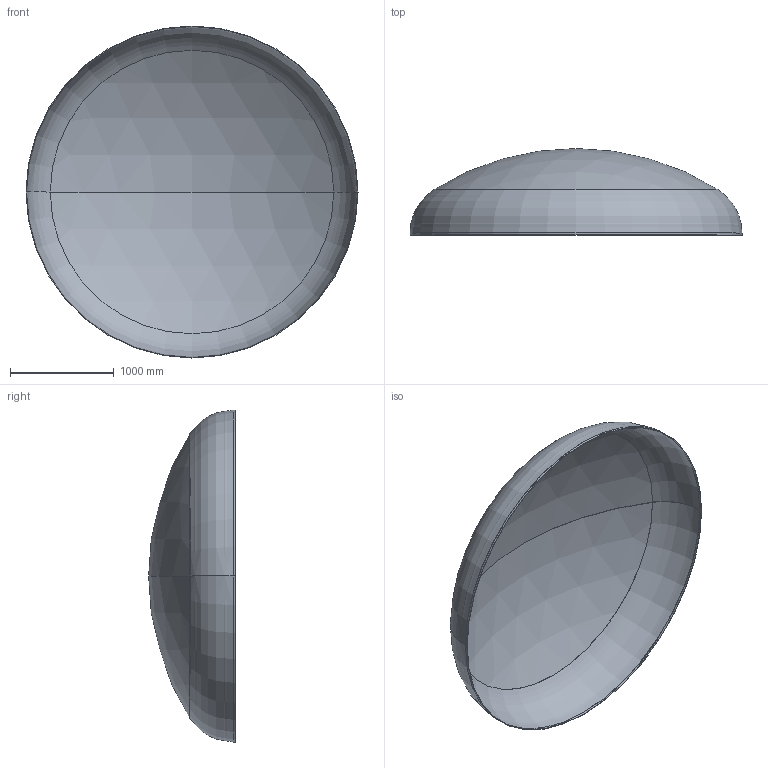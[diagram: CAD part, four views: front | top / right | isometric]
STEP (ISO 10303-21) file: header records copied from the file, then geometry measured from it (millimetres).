
FILE_DESCRIPTION (( 'STEP AP203' ), '1' );
FILE_NAME ('DIN 28013 Korbbogenform_-_Boden DIN 28013 - 3200 x 20 - I - s=5.step', '2016-07-01T18:14:51', ( '' ), ( '' ), 'SwSTEP 2.0', 'SolidWorks 2013', '' );
FILE_SCHEMA (( 'CONFIG_CONTROL_DESIGN' ));
Length unit declared in the file: millimetre
Products named in the file (1): DIN 28013 Korbbogenform_-_Boden DIN 28013 - 3200 x 20 - I - s=5
Bounding box: 3200 x 834.61 x 3200 mm (x, y, z)
Volume: 56526808.1 mm3; surface area: 22660953.1 mm2
Topology: 1 solids, 1 shells, 13 faces, 24 edges, 14 vertices
Faces by surface type: torus 4, cylinder 4, sphere 4, plane 1
Entity records: 407 total; most frequent: DIRECTION 72, CARTESIAN_POINT 52, ORIENTED_EDGE 48, AXIS2_PLACEMENT_3D 34, EDGE_CURVE 24, CIRCLE 20, VERTEX_POINT 14, EDGE_LOOP 14
